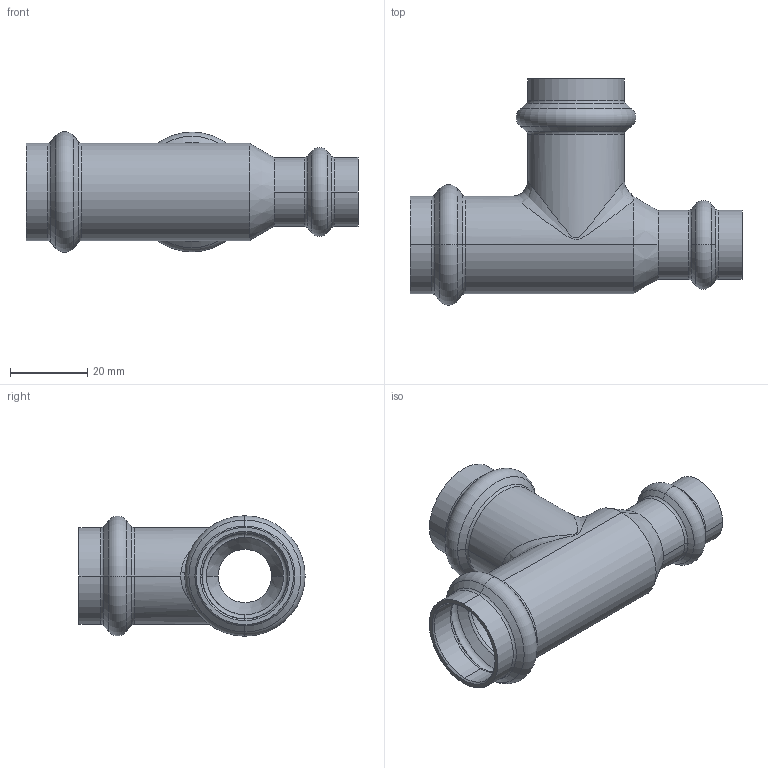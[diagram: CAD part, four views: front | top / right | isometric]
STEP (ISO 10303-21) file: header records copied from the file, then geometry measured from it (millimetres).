
FILE_DESCRIPTION (( 'STEP AP203' ), '1' );
FILE_NAME ('SP5130 Ø22-22-15.STEP', '2017-04-25T14:51:29', ( '' ), ( '' ), 'SwSTEP 2.0', 'SolidWorks 2016', '' );
FILE_SCHEMA (( 'CONFIG_CONTROL_DESIGN' ));
Length unit declared in the file: millimetre
Products named in the file (1): SP5130 Ø22-22-15
Bounding box: 86 x 58.6 x 31.2 mm (x, y, z)
Volume: 15520.8 mm3; surface area: 17525.5 mm2
Topology: 1 solids, 1 shells, 114 faces, 253 edges, 142 vertices
Faces by surface type: torus 39, cone 36, cylinder 30, plane 5, bspline 4
Entity records: 4587 total; most frequent: CARTESIAN_POINT 1921, DIRECTION 624, ORIENTED_EDGE 506, AXIS2_PLACEMENT_3D 279, EDGE_CURVE 253, CIRCLE 168, VERTEX_POINT 142, EDGE_LOOP 119
